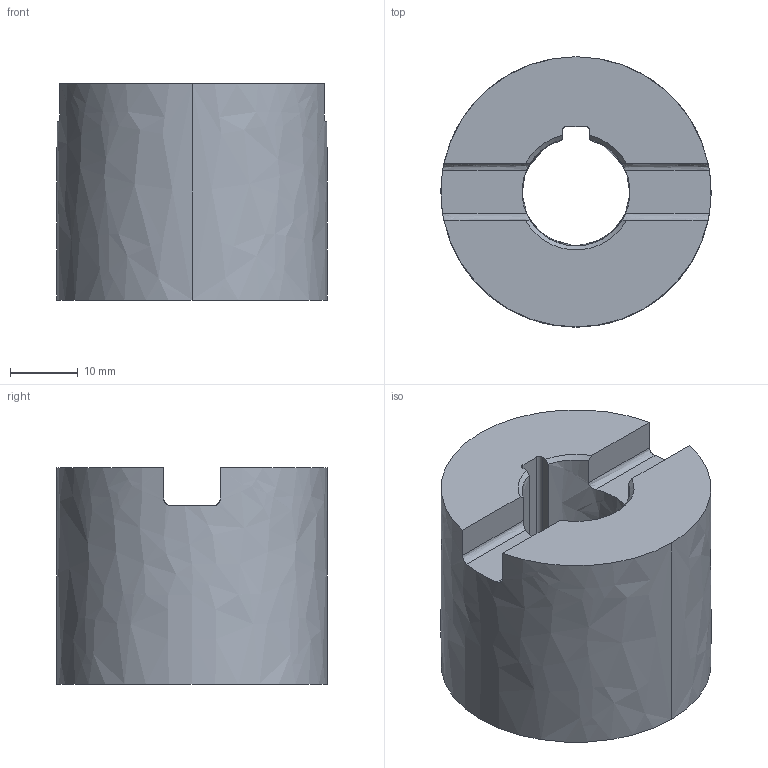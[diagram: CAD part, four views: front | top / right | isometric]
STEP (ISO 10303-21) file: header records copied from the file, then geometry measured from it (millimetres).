
FILE_DESCRIPTION((''),'2;1');
FILE_NAME('DIN4003_82_HEURO','2016-12-15T',('automc'),(''),'PRO/ENGINEER BY PARAMETRIC TECHNOLOGY CORPORATION, 2015280','PRO/ENGINEER BY PARAMETRIC TECHNOLOGY CORPORATION, 2015280','');
FILE_SCHEMA(('AUTOMOTIVE_DESIGN { 1 0 10303 214 1 1 1 1 }'));
Length unit declared in the file: millimetre
Products named in the file (1): DIN4003_82_HEURO
Bounding box: 40 x 40 x 32 mm (x, y, z)
Volume: 29229 mm3; surface area: 7969.9 mm2
Topology: 1 solids, 1 shells, 30 faces, 84 edges, 57 vertices
Faces by surface type: bspline 30
Entity records: 1823 total; most frequent: CARTESIAN_POINT 776, ORIENTED_EDGE 164, DIRECTION 123, EDGE_CURVE 82, VERTEX_POINT 54, VECTOR 43, LINE 43, AXIS2_PLACEMENT_3D 40
